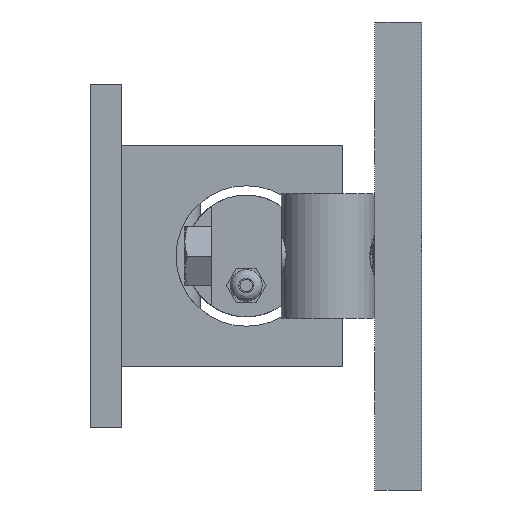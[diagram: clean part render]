
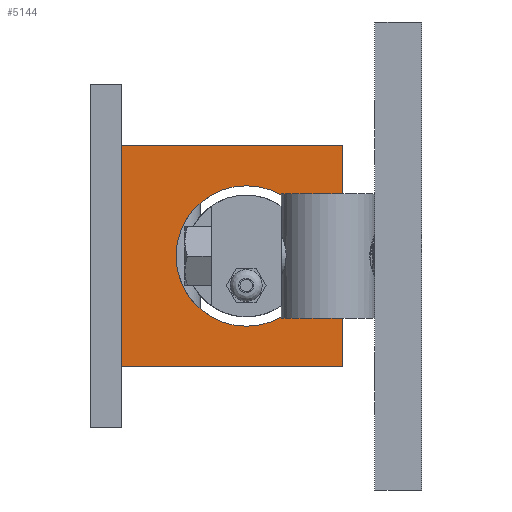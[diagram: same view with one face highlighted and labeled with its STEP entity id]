
A CAD part, left-side view. The second image highlights one B-rep face of the part: STEP entity #5144.
In plain terms, the highlighted planar face has unit normal (-1, 0, 0).
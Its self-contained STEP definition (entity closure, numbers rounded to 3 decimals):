
#192=FACE_BOUND('',#1040,.T.);
#286=PLANE('',#5625);
#424=CIRCLE('',#5624,28.6);
#706=FACE_OUTER_BOUND('',#1039,.T.);
#1039=EDGE_LOOP('',(#4668,#4669,#4670,#4671));
#1040=EDGE_LOOP('',(#4672));
#1575=LINE('',#19888,#1921);
#1592=LINE('',#20078,#1938);
#1593=LINE('',#20080,#1939);
#1594=LINE('',#20081,#1940);
#1921=VECTOR('',#6748,10.);
#1938=VECTOR('',#6801,10.);
#1939=VECTOR('',#6802,10.);
#1940=VECTOR('',#6803,10.);
#2421=VERTEX_POINT('',#19886);
#2422=VERTEX_POINT('',#19887);
#2435=VERTEX_POINT('',#19998);
#2437=VERTEX_POINT('',#20077);
#2438=VERTEX_POINT('',#20079);
#3158=EDGE_CURVE('',#2421,#2422,#1575,.T.);
#3181=EDGE_CURVE('',#2435,#2435,#424,.T.);
#3183=EDGE_CURVE('',#2422,#2437,#1592,.T.);
#3184=EDGE_CURVE('',#2437,#2438,#1593,.T.);
#3185=EDGE_CURVE('',#2438,#2421,#1594,.T.);
#4668=ORIENTED_EDGE('',*,*,#3158,.T.);
#4669=ORIENTED_EDGE('',*,*,#3183,.T.);
#4670=ORIENTED_EDGE('',*,*,#3184,.T.);
#4671=ORIENTED_EDGE('',*,*,#3185,.T.);
#4672=ORIENTED_EDGE('',*,*,#3181,.T.);
#5144=ADVANCED_FACE('',(#706,#192),#286,.F.);
#5624=AXIS2_PLACEMENT_3D('',#20000,#6797,#6798);
#5625=AXIS2_PLACEMENT_3D('',#20076,#6799,#6800);
#6748=DIRECTION('',(0.,0.,-1.));
#6797=DIRECTION('center_axis',(1.,0.,0.));
#6798=DIRECTION('ref_axis',(0.,0.,-1.));
#6799=DIRECTION('center_axis',(1.,0.,0.));
#6800=DIRECTION('ref_axis',(0.,0.,-1.));
#6801=DIRECTION('',(0.,-1.,0.));
#6802=DIRECTION('',(0.,0.,1.));
#6803=DIRECTION('',(0.,1.,0.));
#19886=CARTESIAN_POINT('',(-15.9,122.174,45.));
#19887=CARTESIAN_POINT('',(-15.9,122.174,-45.));
#19888=CARTESIAN_POINT('',(-15.9,122.174,45.));
#19998=CARTESIAN_POINT('',(-15.9,71.374,28.6));
#20000=CARTESIAN_POINT('Origin',(-15.9,71.374,0.));
#20076=CARTESIAN_POINT('Origin',(-15.9,77.174,0.));
#20077=CARTESIAN_POINT('',(-15.9,32.174,-45.));
#20078=CARTESIAN_POINT('',(-15.9,122.174,-45.));
#20079=CARTESIAN_POINT('',(-15.9,32.174,45.));
#20080=CARTESIAN_POINT('',(-15.9,32.174,-45.));
#20081=CARTESIAN_POINT('',(-15.9,32.174,45.));
